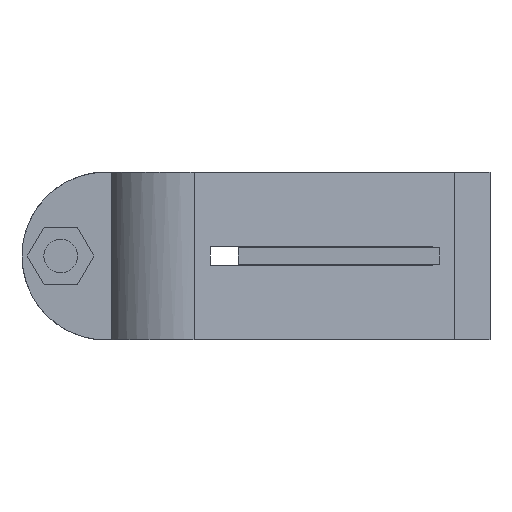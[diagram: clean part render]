
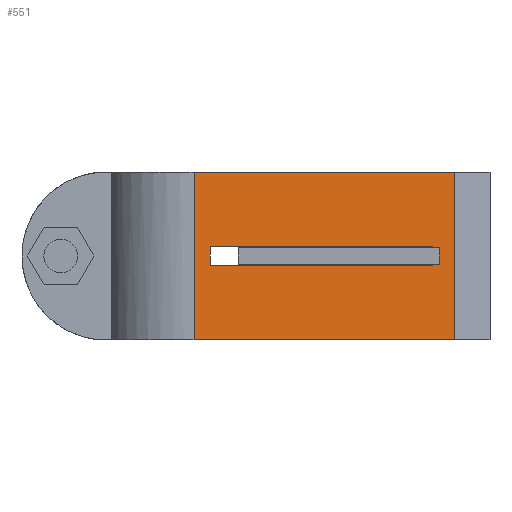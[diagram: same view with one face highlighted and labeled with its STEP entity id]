
A CAD part, front view. The second image highlights one B-rep face of the part: STEP entity #551.
In plain terms, the highlighted planar face has unit normal (0.084, -0.996, 0).
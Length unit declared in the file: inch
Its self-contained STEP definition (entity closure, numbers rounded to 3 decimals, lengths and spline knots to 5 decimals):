
#445=EDGE_CURVE('',#1074,#952,#1075,.T.);
#525=EDGE_CURVE('',#1146,#1193,#1194,.T.);
#551=ADVANCED_FACE('',(#1226,#1227),#1228,.T.);
#685=EDGE_CURVE('',#1397,#1074,#1398,.T.);
#699=EDGE_CURVE('',#952,#1416,#1417,.T.);
#729=EDGE_CURVE('',#1146,#980,#1455,.T.);
#747=EDGE_CURVE('',#1416,#1397,#1476,.T.);
#765=EDGE_CURVE('',#980,#1464,#1497,.T.);
#789=EDGE_CURVE('',#1464,#1193,#1525,.T.);
#952=VERTEX_POINT('',#1770);
#980=VERTEX_POINT('',#1813);
#1074=VERTEX_POINT('',#1954);
#1075=LINE('',#1955,#1956);
#1146=VERTEX_POINT('',#2067);
#1193=VERTEX_POINT('',#2149);
#1194=LINE('',#2150,#2151);
#1226=FACE_BOUND('',#2205,.T.);
#1227=FACE_OUTER_BOUND('',#2206,.T.);
#1228=PLANE('',#2207);
#1397=VERTEX_POINT('',#2506);
#1398=LINE('',#2507,#2508);
#1416=VERTEX_POINT('',#2533);
#1417=LINE('',#2534,#2535);
#1455=LINE('',#2605,#2606);
#1464=VERTEX_POINT('',#2622);
#1476=LINE('',#2646,#2647);
#1497=LINE('',#2702,#2703);
#1525=LINE('',#2759,#2760);
#1770=CARTESIAN_POINT('',(1.18249,0.17466,0.69499));
#1813=CARTESIAN_POINT('',(3.17344,0.34322,0.00009));
#1954=CARTESIAN_POINT('',(1.18249,0.17466,0.55499));
#1955=CARTESIAN_POINT('',(1.18249,0.17466,0.31249));
#1956=VECTOR('',#3103,1.0);
#2067=CARTESIAN_POINT('',(1.06328,0.16457,0.00009));
#2149=CARTESIAN_POINT('',(1.06328,0.16457,1.24989));
#2150=CARTESIAN_POINT('',(1.06328,0.16457,0.0));
#2151=VECTOR('',#3218,1.0);
#2205=EDGE_LOOP('',(#3245,#3246,#3247,#3248));
#2206=EDGE_LOOP('',(#3249,#3250,#3251,#3252));
#2207=AXIS2_PLACEMENT_3D('',#3253,#3254,#3255);
#2506=CARTESIAN_POINT('',(2.83632,0.31467,0.55499));
#2507=CARTESIAN_POINT('',(2.12765,0.25468,0.55499));
#2508=VECTOR('',#3461,1.);
#2533=CARTESIAN_POINT('',(2.83632,0.31467,0.69499));
#2534=CARTESIAN_POINT('',(2.12765,0.25468,0.69499));
#2535=VECTOR('',#3489,1.);
#2605=CARTESIAN_POINT('',(2.04231,0.24745,0.00009));
#2606=VECTOR('',#3532,1.);
#2622=CARTESIAN_POINT('',(3.17344,0.34322,1.24989));
#2646=CARTESIAN_POINT('',(2.83632,0.31467,0.31249));
#2647=VECTOR('',#3552,1.0);
#2702=CARTESIAN_POINT('',(3.17344,0.34322,0.0));
#2703=VECTOR('',#3572,1.0);
#2759=CARTESIAN_POINT('',(2.04231,0.24745,1.24989));
#2760=VECTOR('',#3606,1.);
#3103=DIRECTION('',(0.0,0.0,1.0));
#3218=DIRECTION('',(0.0,0.0,1.0));
#3245=ORIENTED_EDGE('',*,*,#747,.T.);
#3246=ORIENTED_EDGE('',*,*,#685,.T.);
#3247=ORIENTED_EDGE('',*,*,#445,.T.);
#3248=ORIENTED_EDGE('',*,*,#699,.T.);
#3249=ORIENTED_EDGE('',*,*,#729,.T.);
#3250=ORIENTED_EDGE('',*,*,#765,.T.);
#3251=ORIENTED_EDGE('',*,*,#789,.T.);
#3252=ORIENTED_EDGE('',*,*,#525,.F.);
#3253=CARTESIAN_POINT('',(2.11836,0.25389,0.0));
#3254=DIRECTION('',(0.084,-0.996,0.0));
#3255=DIRECTION('',(0.996,0.084,0.0));
#3461=DIRECTION('',(-0.996,-0.084,0.0));
#3489=DIRECTION('',(0.996,0.084,0.0));
#3532=DIRECTION('',(0.996,0.084,0.0));
#3552=DIRECTION('',(-0.0,0.0,-1.0));
#3572=DIRECTION('',(0.0,0.0,1.0));
#3606=DIRECTION('',(-0.996,-0.084,0.0));
